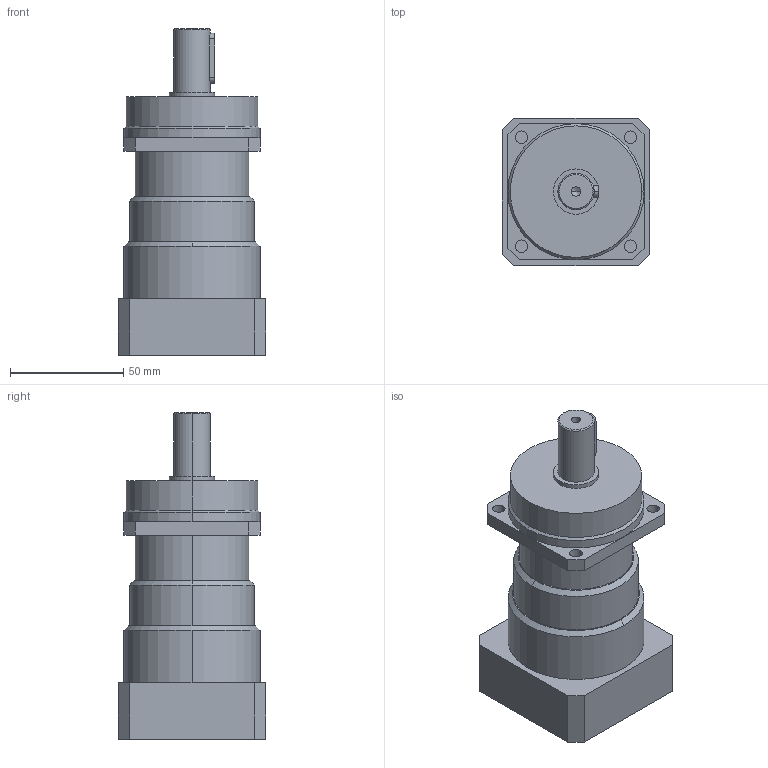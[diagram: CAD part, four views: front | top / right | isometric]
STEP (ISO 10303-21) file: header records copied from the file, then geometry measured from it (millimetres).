
FILE_DESCRIPTION (( 'STEP AP214' ), '1' );
FILE_NAME ('VRS060-L1.STEP', '2019-08-31T03:24:19', ( '微软用户' ), ( '微软中国' ), 'SwSTEP 2.0', 'SolidWorks 2014', '' );
FILE_SCHEMA (( 'AUTOMOTIVE_DESIGN' ));
Length unit declared in the file: millimetre
Products named in the file (2): VRS060-L1
Bounding box: 65 x 65 x 144 mm (x, y, z)
Volume: 316901.8 mm3; surface area: 37725.7 mm2
Topology: 1 solids, 1 shells, 715 faces, 2033 edges, 1342 vertices
Faces by surface type: plane 598, bspline 60, cylinder 39, cone 18
Entity records: 30030 total; most frequent: CARTESIAN_POINT 4922, ORIENTED_EDGE 4046, DIRECTION 3298, EDGE_CURVE 2023, LINE 1814, VECTOR 1814, VERTEX_POINT 1342, EDGE_LOOP 755
